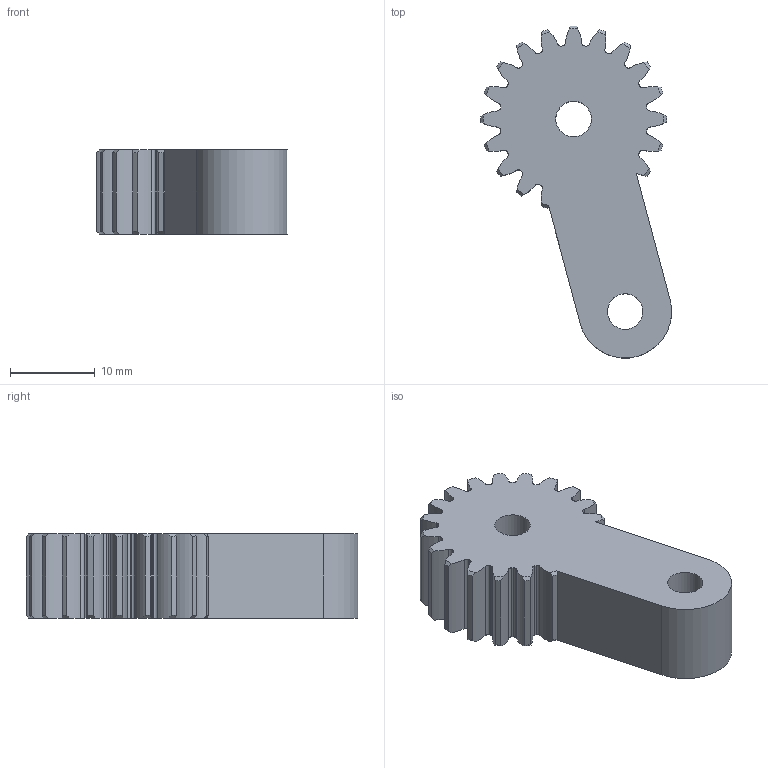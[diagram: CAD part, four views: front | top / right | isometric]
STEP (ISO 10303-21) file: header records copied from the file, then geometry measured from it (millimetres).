
FILE_DESCRIPTION(/* description */ (''),/* implementation_level */ '2;1');
FILE_NAME(/* name */ 'link.step',/* time_stamp */ '2026-02-28T20:12:05+01:00',/* author */ (''),/* organization */ (''),/* preprocessor_version */ 'ST-DEVELOPER v20.1',/* originating_system */ 'Autodesk Translation Framework v14.24.0.0',/* authorisation */ '');
FILE_SCHEMA (('AUTOMOTIVE_DESIGN { 1 0 10303 214 3 1 1 }'));
Length unit declared in the file: millimetre
Products named in the file (1): link
Bounding box: 22.58 x 39.24 x 10 mm (x, y, z)
Volume: 4865.8 mm3; surface area: 2697 mm2
Topology: 1 solids, 1 shells, 140 faces, 414 edges, 276 vertices
Faces by surface type: cylinder 86, cone 34, plane 20
Full cylindrical faces by diameter (mm): 4.2 x2
Entity records: 4889 total; most frequent: CARTESIAN_POINT 1039, DIRECTION 830, ORIENTED_EDGE 828, EDGE_CURVE 414, AXIS2_PLACEMENT_3D 345, VERTEX_POINT 276, CIRCLE 204, EDGE_LOOP 144
